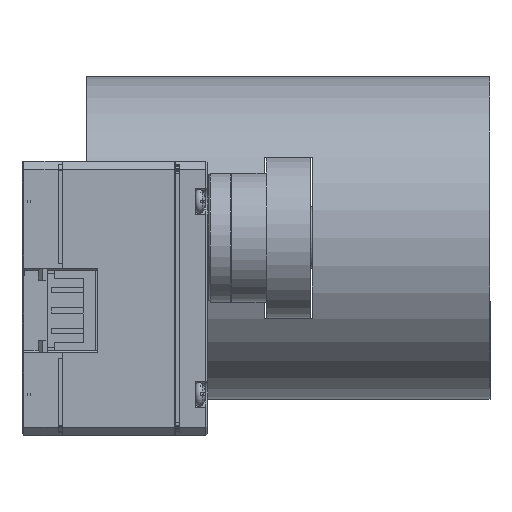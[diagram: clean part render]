
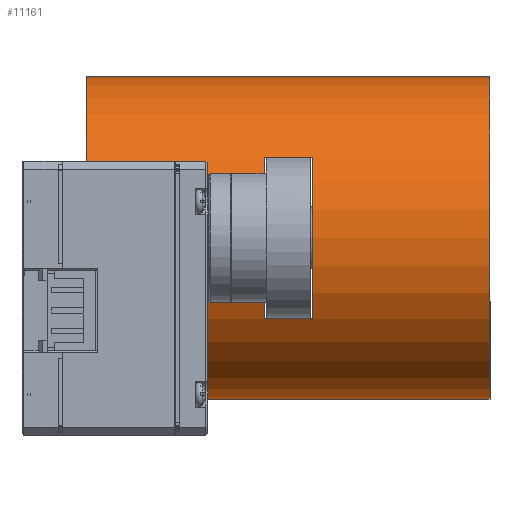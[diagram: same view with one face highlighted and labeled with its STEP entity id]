
A CAD part, left-side view. The second image highlights one B-rep face of the part: STEP entity #11161.
In plain terms, the highlighted cylindrical face has radius 20 mm (diameter 40 mm), a full revolution.
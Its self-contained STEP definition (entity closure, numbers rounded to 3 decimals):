
#258=CYLINDRICAL_SURFACE('',#12221,20.);
#387=FACE_BOUND('',#2132,.T.);
#759=CIRCLE('',#12205,20.);
#760=CIRCLE('',#12206,20.);
#761=CIRCLE('',#12207,20.);
#763=CIRCLE('',#12210,20.);
#764=CIRCLE('',#12211,20.);
#765=CIRCLE('',#12212,20.);
#768=CIRCLE('',#12218,20.);
#770=CIRCLE('',#12222,20.);
#1391=FACE_OUTER_BOUND('',#2131,.T.);
#2131=EDGE_LOOP('',(#10099,#10100,#10101,#10102,#10103,#10104,#10105,#10106,
#10107,#10108,#10109,#10110));
#2132=EDGE_LOOP('',(#10111,#10112,#10113,#10114));
#3269=LINE('',#18731,#4415);
#3271=LINE('',#18735,#4417);
#3275=LINE('',#18758,#4421);
#3276=LINE('',#18759,#4422);
#3279=LINE('',#18774,#4425);
#3280=LINE('',#18775,#4426);
#4415=VECTOR('',#15326,10.);
#4417=VECTOR('',#15328,10.);
#4421=VECTOR('',#15354,10.);
#4422=VECTOR('',#15355,10.);
#4425=VECTOR('',#15374,20.);
#4426=VECTOR('',#15375,20.);
#5424=VERTEX_POINT('',#18729);
#5425=VERTEX_POINT('',#18730);
#5426=VERTEX_POINT('',#18732);
#5427=VERTEX_POINT('',#18734);
#5428=VERTEX_POINT('',#18738);
#5429=VERTEX_POINT('',#18740);
#5430=VERTEX_POINT('',#18742);
#5432=VERTEX_POINT('',#18748);
#5433=VERTEX_POINT('',#18750);
#5434=VERTEX_POINT('',#18752);
#5437=VERTEX_POINT('',#18765);
#5439=VERTEX_POINT('',#18772);
#6975=EDGE_CURVE('',#5424,#5425,#3269,.T.);
#6977=EDGE_CURVE('',#5427,#5426,#3271,.T.);
#6979=EDGE_CURVE('',#5428,#5424,#759,.T.);
#6981=EDGE_CURVE('',#5430,#5429,#760,.T.);
#6982=EDGE_CURVE('',#5426,#5430,#761,.T.);
#6984=EDGE_CURVE('',#5425,#5432,#763,.T.);
#6985=EDGE_CURVE('',#5433,#5427,#764,.T.);
#6986=EDGE_CURVE('',#5434,#5433,#765,.T.);
#6989=EDGE_CURVE('',#5432,#5428,#3275,.T.);
#6990=EDGE_CURVE('',#5429,#5434,#3276,.T.);
#6993=EDGE_CURVE('',#5437,#5437,#768,.T.);
#6996=EDGE_CURVE('',#5439,#5439,#770,.T.);
#6997=EDGE_CURVE('',#5439,#5433,#3279,.T.);
#6998=EDGE_CURVE('',#5430,#5437,#3280,.T.);
#10099=ORIENTED_EDGE('',*,*,#6996,.F.);
#10100=ORIENTED_EDGE('',*,*,#6997,.T.);
#10101=ORIENTED_EDGE('',*,*,#6985,.T.);
#10102=ORIENTED_EDGE('',*,*,#6977,.T.);
#10103=ORIENTED_EDGE('',*,*,#6982,.T.);
#10104=ORIENTED_EDGE('',*,*,#6998,.T.);
#10105=ORIENTED_EDGE('',*,*,#6993,.F.);
#10106=ORIENTED_EDGE('',*,*,#6998,.F.);
#10107=ORIENTED_EDGE('',*,*,#6981,.T.);
#10108=ORIENTED_EDGE('',*,*,#6990,.T.);
#10109=ORIENTED_EDGE('',*,*,#6986,.T.);
#10110=ORIENTED_EDGE('',*,*,#6997,.F.);
#10111=ORIENTED_EDGE('',*,*,#6975,.T.);
#10112=ORIENTED_EDGE('',*,*,#6984,.T.);
#10113=ORIENTED_EDGE('',*,*,#6989,.T.);
#10114=ORIENTED_EDGE('',*,*,#6979,.T.);
#11161=ADVANCED_FACE('',(#1391,#387),#258,.T.);
#12205=AXIS2_PLACEMENT_3D('',#18739,#15332,#15333);
#12206=AXIS2_PLACEMENT_3D('',#18743,#15335,#15336);
#12207=AXIS2_PLACEMENT_3D('',#18744,#15337,#15338);
#12210=AXIS2_PLACEMENT_3D('',#18749,#15343,#15344);
#12211=AXIS2_PLACEMENT_3D('',#18751,#15345,#15346);
#12212=AXIS2_PLACEMENT_3D('',#18753,#15347,#15348);
#12218=AXIS2_PLACEMENT_3D('',#18766,#15363,#15364);
#12221=AXIS2_PLACEMENT_3D('',#18771,#15370,#15371);
#12222=AXIS2_PLACEMENT_3D('',#18773,#15372,#15373);
#15326=DIRECTION('',(0.,1.,0.));
#15328=DIRECTION('',(0.,-1.,0.));
#15332=DIRECTION('center_axis',(0.,-1.,0.));
#15333=DIRECTION('ref_axis',(1.,0.,0.));
#15335=DIRECTION('center_axis',(0.,-1.,0.));
#15336=DIRECTION('ref_axis',(1.,0.,0.));
#15337=DIRECTION('center_axis',(0.,-1.,0.));
#15338=DIRECTION('ref_axis',(1.,0.,0.));
#15343=DIRECTION('center_axis',(0.,1.,0.));
#15344=DIRECTION('ref_axis',(1.,0.,0.));
#15345=DIRECTION('center_axis',(0.,1.,0.));
#15346=DIRECTION('ref_axis',(1.,0.,0.));
#15347=DIRECTION('center_axis',(0.,1.,0.));
#15348=DIRECTION('ref_axis',(1.,0.,0.));
#15354=DIRECTION('',(0.,-1.,0.));
#15355=DIRECTION('',(0.,1.,0.));
#15363=DIRECTION('center_axis',(0.,-1.,0.));
#15364=DIRECTION('ref_axis',(1.,0.,0.));
#15370=DIRECTION('center_axis',(0.,1.,0.));
#15371=DIRECTION('ref_axis',(1.,0.,0.));
#15372=DIRECTION('center_axis',(0.,1.,0.));
#15373=DIRECTION('ref_axis',(1.,0.,0.));
#15374=DIRECTION('',(0.,-1.,0.));
#15375=DIRECTION('',(0.,-1.,0.));
#18729=CARTESIAN_POINT('',(17.321,-3.,10.));
#18730=CARTESIAN_POINT('',(17.321,3.,10.));
#18731=CARTESIAN_POINT('',(17.321,0.,10.));
#18732=CARTESIAN_POINT('',(-17.321,-3.,10.));
#18734=CARTESIAN_POINT('',(-17.321,3.,10.));
#18735=CARTESIAN_POINT('',(-17.321,0.,10.));
#18738=CARTESIAN_POINT('',(17.321,-3.,-10.));
#18739=CARTESIAN_POINT('Origin',(0.,-3.,0.));
#18740=CARTESIAN_POINT('',(-17.321,-3.,-10.));
#18742=CARTESIAN_POINT('',(-20.,-3.,0.));
#18743=CARTESIAN_POINT('Origin',(0.,-3.,0.));
#18744=CARTESIAN_POINT('Origin',(0.,-3.,0.));
#18748=CARTESIAN_POINT('',(17.321,3.,-10.));
#18749=CARTESIAN_POINT('Origin',(0.,3.,0.));
#18750=CARTESIAN_POINT('',(-20.,3.,0.));
#18751=CARTESIAN_POINT('Origin',(0.,3.,0.));
#18752=CARTESIAN_POINT('',(-17.321,3.,-10.));
#18753=CARTESIAN_POINT('Origin',(0.,3.,0.));
#18758=CARTESIAN_POINT('',(17.321,0.,-10.));
#18759=CARTESIAN_POINT('',(-17.321,0.,-10.));
#18765=CARTESIAN_POINT('',(-20.,-25.,0.));
#18766=CARTESIAN_POINT('Origin',(0.,-25.,0.));
#18771=CARTESIAN_POINT('Origin',(0.,0.,0.));
#18772=CARTESIAN_POINT('',(-20.,25.,0.));
#18773=CARTESIAN_POINT('Origin',(0.,25.,0.));
#18774=CARTESIAN_POINT('',(-20.,0.,0.));
#18775=CARTESIAN_POINT('',(-20.,0.,0.));
